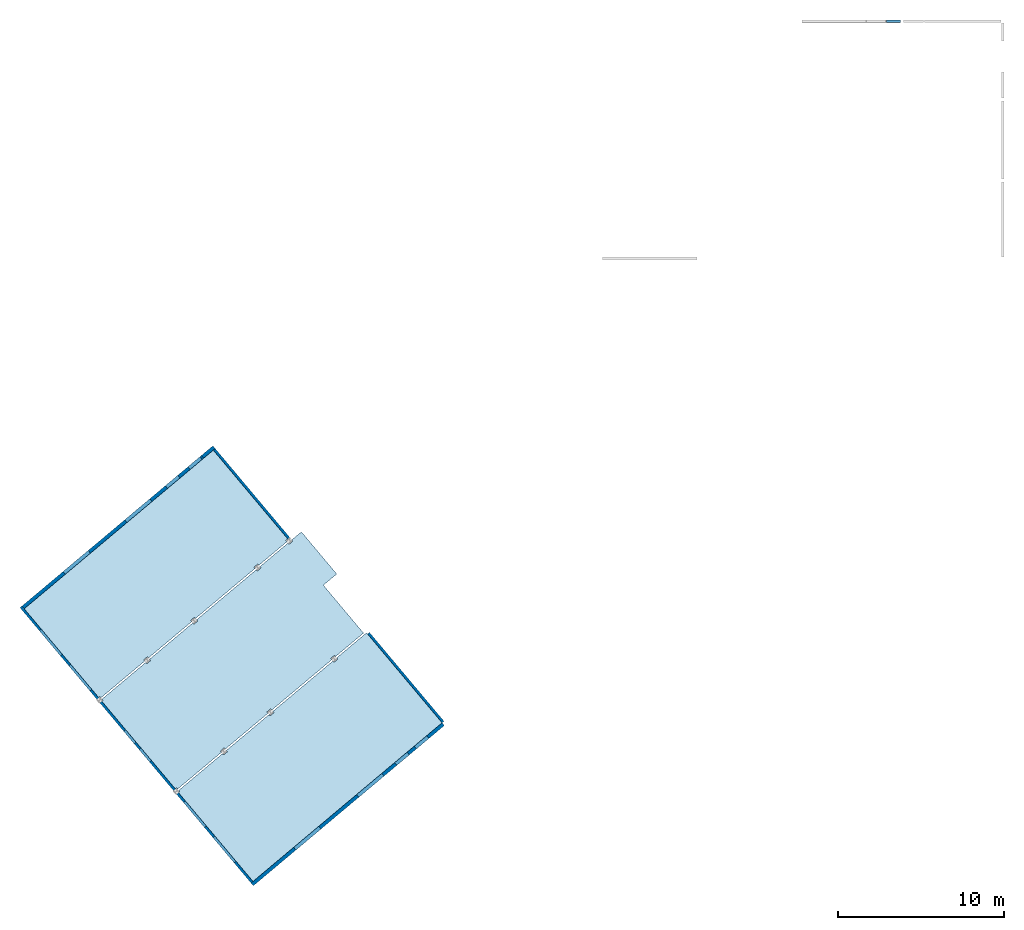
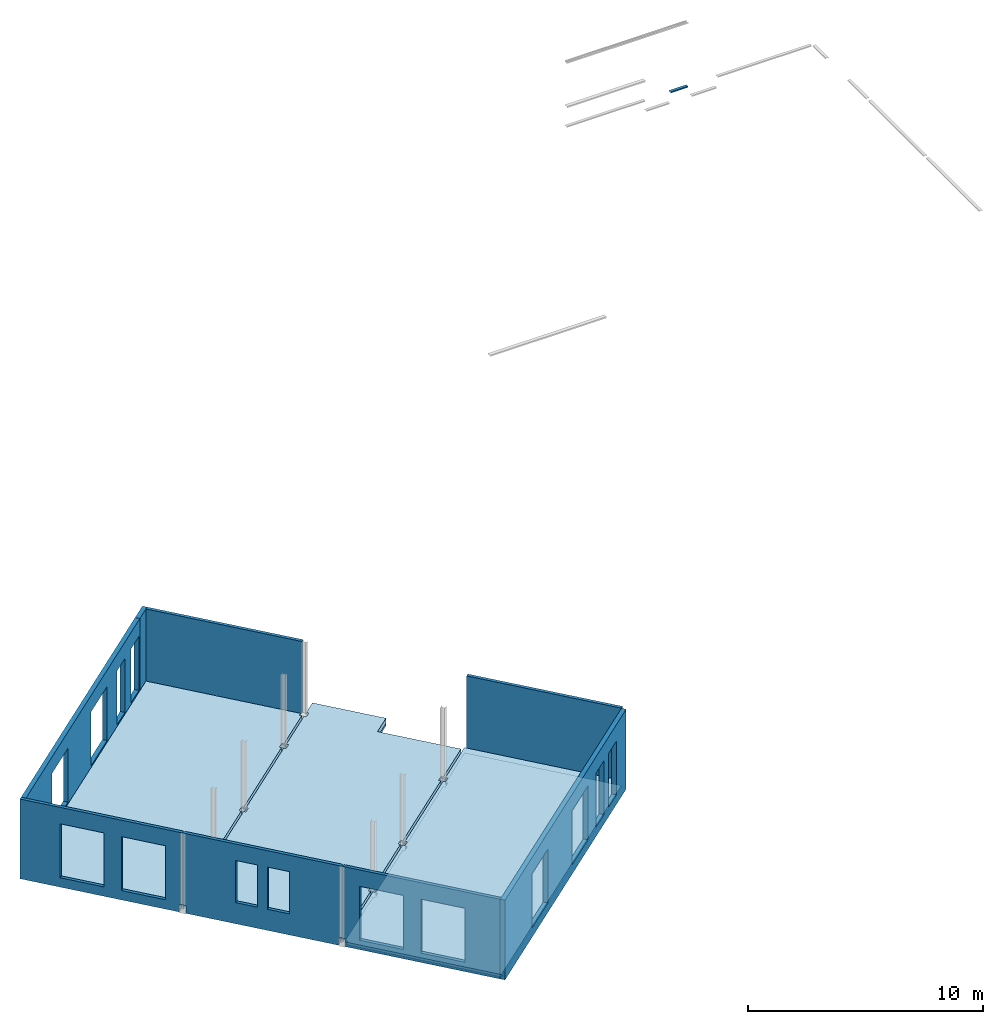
# One storey, part 3 of 3: 8 walls, 6 slabs, 1 beam, 19 openings.
"""IFC2X3 building model written with IfcOpenShell, lengths in millimetres."""

from ifc_helpers import new_model, entity, si_unit, converted_unit, derived_unit, direction, frame, frame_2d, origin, origin_2d_with_axis, place, context, subcontext, project, spatial, polyline, circle_curve, parameter, trimmed, segment, composite_curve, rectangle, outline, extrude, material, layer, layer_set, layer_usage, type_object, element, save


model = new_model("IFC2X3")

# Units and contexts
model_context = context("Model", 3, precision=0.01, world=origin(), true_north=direction((6.12303176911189e-17, 1.0)))
body_context = subcontext(model_context, "Body", "Model", "MODEL_VIEW")
ifc_project = project(units=[si_unit("LENGTHUNIT", "METRE", prefix="MILLI"), si_unit("AREAUNIT", "SQUARE_METRE"), si_unit("VOLUMEUNIT", "CUBIC_METRE"), converted_unit("PLANEANGLEUNIT", "DEGREE", entity("IfcRatioMeasure", 0.0174532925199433), si_unit("PLANEANGLEUNIT", "RADIAN"), dimensions=[0, 0, 0, 0, 0, 0, 0]), si_unit("MASSUNIT", "GRAM", prefix="KILO"), derived_unit("MASSDENSITYUNIT", [(si_unit("MASSUNIT", "GRAM", prefix="KILO"), 1), (si_unit("LENGTHUNIT", "METRE"), -3)]), derived_unit("MOMENTOFINERTIAUNIT", [(si_unit("LENGTHUNIT", "METRE"), 4)]), si_unit("TIMEUNIT", "SECOND"), si_unit("FREQUENCYUNIT", "HERTZ"), si_unit("THERMODYNAMICTEMPERATUREUNIT", "DEGREE_CELSIUS"), derived_unit("THERMALTRANSMITTANCEUNIT", [(si_unit("MASSUNIT", "GRAM", prefix="KILO"), 1), (si_unit("THERMODYNAMICTEMPERATUREUNIT", "KELVIN"), -1), (si_unit("TIMEUNIT", "SECOND"), -3)]), derived_unit("VOLUMETRICFLOWRATEUNIT", [(si_unit("LENGTHUNIT", "METRE"), 3), (si_unit("TIMEUNIT", "SECOND"), -1)]), si_unit("ELECTRICCURRENTUNIT", "AMPERE"), si_unit("ELECTRICVOLTAGEUNIT", "VOLT"), si_unit("POWERUNIT", "WATT"), si_unit("FORCEUNIT", "NEWTON", prefix="KILO"), si_unit("ILLUMINANCEUNIT", "LUX"), si_unit("LUMINOUSFLUXUNIT", "LUMEN"), si_unit("LUMINOUSINTENSITYUNIT", "CANDELA"), derived_unit("USERDEFINED", [(si_unit("MASSUNIT", "GRAM", prefix="KILO"), -1), (si_unit("LENGTHUNIT", "METRE"), -2), (si_unit("TIMEUNIT", "SECOND"), 3), (si_unit("LUMINOUSFLUXUNIT", "LUMEN"), 1)]), derived_unit("LINEARVELOCITYUNIT", [(si_unit("LENGTHUNIT", "METRE"), 1), (si_unit("TIMEUNIT", "SECOND"), -1)]), si_unit("PRESSUREUNIT", "PASCAL"), derived_unit("USERDEFINED", [(si_unit("LENGTHUNIT", "METRE"), -2), (si_unit("MASSUNIT", "GRAM", prefix="KILO"), 1), (si_unit("TIMEUNIT", "SECOND"), -2)]), derived_unit("LINEARFORCEUNIT", [(si_unit("MASSUNIT", "GRAM", prefix="KILO"), 1), (si_unit("LENGTHUNIT", "METRE"), 1), (si_unit("TIMEUNIT", "SECOND"), -2), (si_unit("LENGTHUNIT", "METRE"), -1)]), derived_unit("PLANARFORCEUNIT", [(si_unit("MASSUNIT", "GRAM", prefix="KILO"), 1), (si_unit("LENGTHUNIT", "METRE"), 1), (si_unit("TIMEUNIT", "SECOND"), -2), (si_unit("LENGTHUNIT", "METRE"), -2)])], contexts=[model_context])

# Site, building, storey
site_placement = place(None, origin())
site = spatial("IfcSite", under=ifc_project, at=site_placement, Name="Default", CompositionType="ELEMENT")
building_placement = place(site_placement, origin())
building = spatial("IfcBuilding", under=site, at=building_placement, CompositionType="ELEMENT")
storey_placement = place(building_placement, origin())
storey = spatial("IfcBuildingStorey", under=building, at=storey_placement, Name="00 begane grond", CompositionType="ELEMENT", Elevation=-2.70716782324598e-13)

# Beam
ifc_material_1 = material(Name="00_Staal_generiek")
beam_type = type_object("IfcBeamType", Name="BERSnl_28_SF_LIB_balk unp_gen_ISR:balk_gen_UNP140", PredefinedType="BEAM")
beam_placement = place(storey_placement, frame((55048.6770571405, 35356.2966282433, 1989.4999999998)))
element("IfcBeam", 1, at=beam_placement, inside=storey, type_object=beam_type, material=ifc_material_1, Name="BERSnl_28_SF_LIB_balk unp_gen_ISR:balk_gen_UNP140", ObjectType="BERSnl_28_SF_LIB_balk unp_gen_ISR:balk_gen_UNP140", context=body_context, shape_type="SweptSolid", body=[
    extrude(outline(composite_curve([segment(polyline([(-33.1001241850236, -70.0), (26.8998758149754, -70.0)]), True, "CONTINUOUS"), segment(polyline([(26.8998758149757, -70.0), (26.8998758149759, -66.7383127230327)]), True, "CONTINUOUS"), segment(trimmed(circle_curve(frame_2d((21.8998758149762, -66.738312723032), x_axis=(1.0, 0.0)), 4.99999999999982), [parameter(0.0)], [parameter(85.4200000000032)], True, "PARAMETER"), True, "CONTINUOUS"), segment(polyline([(22.2991307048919, -61.7542786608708), (-16.8986339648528, -58.6142721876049)]), True, "CONTINUOUS"), segment(trimmed(circle_curve(frame_2d((-16.1001241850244, -48.6462040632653), x_axis=(-0.0798509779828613, -0.996806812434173)), 9.99999999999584), [parameter(274.579999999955)], [parameter(0.0)], True, "PARAMETER"), False, "CONTINUOUS"), segment(polyline([(-26.1001241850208, -48.6462040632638), (-26.1001241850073, 48.64620406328)]), True, "CONTINUOUS"), segment(trimmed(circle_curve(frame_2d((-16.1001241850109, 48.6462040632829), x_axis=(-1.0, 0.0)), 9.99999999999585), [parameter(274.579999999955)], [parameter(0.0)], True, "PARAMETER"), False, "CONTINUOUS"), segment(polyline([(-16.8986339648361, 58.6142721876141), (22.2991307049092, 61.7542786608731)]), True, "CONTINUOUS"), segment(trimmed(circle_curve(frame_2d((21.8998758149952, 66.738312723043), x_axis=(0.079850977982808, -0.996806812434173)), 4.9999999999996), [parameter(0.0)], [parameter(85.4200000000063)], True, "PARAMETER"), True, "CONTINUOUS"), segment(polyline([(26.8998758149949, 66.7383127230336), (26.8998758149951, 70.0)]), True, "CONTINUOUS"), segment(polyline([(26.8998758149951, 70.0), (-33.1001241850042, 70.0)]), True, "CONTINUOUS"), segment(polyline([(-33.1001241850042, 70.0), (-33.1001241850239, -70.0)]), True, "CONTINUOUS")], self_intersect=False)), frame((-2705.24999999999, 70.0, -15.6001241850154), z_axis=(1.0, 0.0, 0.0), x_axis=(0.0, 0.0, -1.0)), (0.0, 0.0, 1.0), 850.000000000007),
])

# Slabs
ifc_material_2 = material(Name="f2_beton prefab")
ifc_layer_1 = layer(ifc_material_2, 265.0)
ifc_layer_set_1 = layer_set([ifc_layer_1], Name="Floor:BERSnl_23_FL_kanaalplaatvloer 265")
ifc_layer_usage_1 = layer_usage(ifc_layer_set_1, "AXIS3", "POSITIVE", 0.0)
slab_type_1 = type_object("IfcSlabType", Name="Floor:BERSnl_23_FL_kanaalplaatvloer 265", PredefinedType="FLOOR", material=ifc_layer_set_1)
slab_1_placement = place(storey_placement, origin())
element("IfcSlab", 2, at=slab_1_placement, inside=storey, type_object=slab_type_1, material=ifc_layer_usage_1, Name="Floor:BERSnl_23_FL_kanaalplaatvloer 265", ObjectType="Floor:BERSnl_23_FL_kanaalplaatvloer 265", PredefinedType="FLOOR", context=body_context, shape_type="SweptSolid", body=[
    extrude(outline(polyline([(-833.333333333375, -8026.02686593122), (6266.66666666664, -8026.02686593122), (6266.66666666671, 6884.35373036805), (-733.333333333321, 6884.35373036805), (-733.333333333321, 6789.99863434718), (-833.333333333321, 6789.99863434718), (-833.333333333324, 3333.78293508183), (-733.333333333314, 3333.78293508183), (-733.333333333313, 3033.78293508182), (-833.333333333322, 3033.78293508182), (-833.33333333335, -342.175500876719), (-733.33333333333, -342.175500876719), (-733.33333333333, -642.175500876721), (-833.333333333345, -642.17550087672), (-833.333333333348, -5365.77018359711), (-733.33333333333, -5365.77018359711), (-733.333333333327, -5665.77018359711), (-833.333333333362, -5665.77018359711), (-833.333333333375, -8026.02686593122)])), frame((15317.9820554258, -7311.74844094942, 1360.0), z_axis=(0.0, 0.0, -1.0), x_axis=(0.642787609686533, -0.766044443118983, 0.0)), (0.0, 0.0, 1.0), 265.0),
])
ifc_material_3 = material(Name="00_Isolatie_generiek")
ifc_layer_2 = layer(ifc_material_3, 130.0)
ifc_layer_set_2 = layer_set([ifc_layer_2], Name="Floor:NLRS_23_FL_isolatie 130")
ifc_layer_usage_2 = layer_usage(ifc_layer_set_2, "AXIS3", "POSITIVE", 0.0)
slab_type_2 = type_object("IfcSlabType", Name="Floor:NLRS_23_FL_isolatie 130", PredefinedType="FLOOR", material=ifc_layer_set_2)
slab_2_placement = place(storey_placement, origin())
element("IfcSlab", 3, at=slab_2_placement, inside=storey, type_object=slab_type_2, material=ifc_layer_usage_2, Name="Floor:NLRS_23_FL_isolatie 130", ObjectType="Floor:NLRS_23_FL_isolatie 130", PredefinedType="FLOOR", context=body_context, shape_type="SweptSolid", body=[
    extrude(outline(polyline([(-833.333333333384, -8026.53423951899), (6266.66666666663, -8026.53423951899), (6266.66666666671, 6884.41715206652), (-733.333333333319, 6884.41715206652), (-733.333333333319, 6790.06205604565), (-833.333333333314, 6790.06205604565), (-833.333333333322, 3333.8463567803), (-733.333333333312, 3333.8463567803), (-733.333333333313, 3033.8463567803), (-833.333333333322, 3033.8463567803), (-833.333333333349, -342.112079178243), (-733.333333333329, -342.112079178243), (-733.333333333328, -642.112079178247), (-833.333333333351, -642.112079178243), (-833.333333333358, -5365.70676189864), (-733.333333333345, -5365.70676189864), (-733.333333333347, -5665.70676189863), (-833.333333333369, -5665.70676189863), (-833.333333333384, -8026.53423951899)])), frame((15318.0306392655, -7311.70767426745, 1095.0), z_axis=(0.0, 0.0, -1.0), x_axis=(0.642787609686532, -0.766044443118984, 0.0)), (0.0, 0.0, 1.0), 130.0),
])
ifc_layer_usage_3 = layer_usage(ifc_layer_set_1, "AXIS3", "POSITIVE", 0.0)
slab_type_3 = type_object("IfcSlabType", Name="Floor:BERSnl_23_FL_kanaalplaatvloer 265", PredefinedType="FLOOR", material=ifc_layer_set_1)
slab_3_placement = place(storey_placement, origin())
element("IfcSlab", 4, at=slab_3_placement, inside=storey, type_object=slab_type_3, material=ifc_layer_usage_3, Name="Floor:BERSnl_23_FL_kanaalplaatvloer 265", ObjectType="Floor:BERSnl_23_FL_kanaalplaatvloer 265", PredefinedType="FLOOR", context=body_context, shape_type="SweptSolid", body=[
    extrude(outline(polyline([(-3169.736842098, -7681.17558252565), (155.26315789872, -7681.17558252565), (155.263157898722, -6626.17558253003), (3930.26315789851, -6626.17558252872), (3930.26315789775, -4416.29943038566), (3830.26315789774, -4416.29943038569), (3830.26315789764, -4116.29943038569), (3930.26315789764, -4116.29943038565), (3930.26315789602, 607.295252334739), (3830.26315789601, 607.295252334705), (3830.2631578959, 907.295252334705), (3930.26315789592, 907.295252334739), (3930.26315789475, 4283.25368829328), (3830.26315789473, 4283.25368829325), (3830.26315789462, 4583.25368829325), (3930.26315789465, 4583.25368829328), (3930.26315789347, 8039.46938755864), (3830.26315789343, 8039.4693875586), (3830.2631578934, 8133.82448357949), (-3069.7368421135, 8133.82448357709), (-3069.73684211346, 8039.46938755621), (-3169.73684210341, 8039.46938755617), (-3169.7368421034, 4583.24922223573), (-3069.73684210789, 4583.24922223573), (-3069.73684211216, 4283.24922223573), (-3169.7368421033, 4283.24922223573), (-3169.73684210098, 883.24922223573), (-3069.73684211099, 883.24922223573), (-3069.73684211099, 583.249222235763), (-3169.73684210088, 583.249222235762), (-3169.73684210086, -4116.81932617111), (-3069.73684211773, -4116.81932617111), (-3069.73684211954, -4416.97645145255), (-3169.73684209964, -4416.97645145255), (-3169.73684209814, -6626.55611272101), (-3069.73684210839, -6626.55611272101), (-3069.73684210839, -6926.55611272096), (-3169.736842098, -6926.55611272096), (-3169.736842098, -7681.17558252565)])), frame((13148.8726196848, -2782.87305644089, 1360.0), z_axis=(0.0, 0.0, -1.0), x_axis=(0.642787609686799, -0.76604444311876, 0.0)), (0.0, 0.0, 1.0), 265.0),
])
ifc_layer_usage_4 = layer_usage(ifc_layer_set_2, "AXIS3", "POSITIVE", 0.0)
slab_type_4 = type_object("IfcSlabType", Name="Floor:NLRS_23_FL_isolatie 130", PredefinedType="FLOOR", material=ifc_layer_set_2)
slab_4_placement = place(storey_placement, origin())
element("IfcSlab", 5, at=slab_4_placement, inside=storey, type_object=slab_type_4, material=ifc_layer_usage_4, Name="Floor:NLRS_23_FL_isolatie 130", ObjectType="Floor:NLRS_23_FL_isolatie 130", PredefinedType="FLOOR", context=body_context, shape_type="SweptSolid", body=[
    extrude(outline(polyline([(155.393663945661, -6626.16731277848), (3930.39366394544, -6626.16731277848), (3930.39366394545, -4416.29116063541), (3830.39366394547, -4416.29116063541), (3830.39366394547, -4116.29116063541), (3930.39366394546, -4116.29116063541), (3930.39366394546, 607.303522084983), (3830.39366394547, 607.303522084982), (3830.39366394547, 907.303522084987), (3930.39366394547, 907.303522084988), (3930.39366394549, 4283.26195804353), (3830.39366394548, 4283.26195804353), (3830.39366394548, 4583.26195804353), (3930.39366394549, 4583.26195804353), (3930.3936639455, 8039.47765730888), (3830.39366394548, 8039.47765730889), (3830.39366394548, 8133.83275332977), (-3072.08595094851, 8133.83275332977), (-3072.08595094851, 8039.47765730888), (-3169.60633606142, 8039.47765730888), (-3169.60633606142, 4583.25749198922), (-3069.60633605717, 4583.25749198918), (-3069.60633605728, 4283.25749198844), (-3169.60633606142, 4283.25749198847), (-3169.60633606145, 883.257491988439), (-3069.60633606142, 883.257491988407), (-3069.60633606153, 583.257491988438), (-3169.60633606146, 583.257491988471), (-3169.60633606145, -4116.96818169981), (-3069.60633607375, -4116.96818169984), (-3069.60633607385, -4416.96818169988), (-3169.60633606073, -4416.96818169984), (-3169.60633606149, -6626.54784296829), (-3069.60633606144, -6626.54784296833), (-3069.60633606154, -6926.54784296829), (-3169.60633606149, -6926.54784296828), (-3169.60633606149, -7681.16731277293), (155.39366394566, -7681.16731277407), (155.393663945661, -6626.16731277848)])), frame((13148.7950670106, -2782.76776731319, 1095.0), z_axis=(0.0, 0.0, -1.0), x_axis=(0.642787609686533, -0.766044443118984, 0.0)), (0.0, 0.0, 1.0), 130.0),
])
ifc_layer_usage_5 = layer_usage(ifc_layer_set_1, "AXIS3", "POSITIVE", 0.0)
slab_type_5 = type_object("IfcSlabType", Name="Floor:BERSnl_23_FL_kanaalplaatvloer 265", PredefinedType="FLOOR", material=ifc_layer_set_1)
slab_5_placement = place(storey_placement, origin())
element("IfcSlab", 6, at=slab_5_placement, inside=storey, type_object=slab_type_5, material=ifc_layer_usage_5, Name="Floor:BERSnl_23_FL_kanaalplaatvloer 265", ObjectType="Floor:BERSnl_23_FL_kanaalplaatvloer 265", PredefinedType="FLOOR", context=body_context, shape_type="SweptSolid", body=[
    extrude(outline(polyline([(-6340.30331497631, -7233.13619871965), (659.696685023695, -7233.13619871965), (659.696685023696, -7083.51672891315), (759.696684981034, -7083.51672891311), (759.696684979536, -4873.93706764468), (660.707735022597, -4873.93706764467), (660.707735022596, -4573.93706764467), (759.696684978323, -4573.93706764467), (759.696684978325, 126.288606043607), (660.707735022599, 126.288606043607), (660.707735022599, 426.288606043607), (759.696684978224, 426.288606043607), (759.696684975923, 3826.28860604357), (660.707735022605, 3826.28860604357), (660.707735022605, 4126.2886060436), (759.696684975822, 4126.2886060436), (759.696684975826, 7582.50877136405), (659.69668497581, 7582.50877136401), (659.69668497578, 7676.86386738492), (-6340.30331498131, 7676.86386738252), (-6340.30331497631, -7233.13619871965)])), frame((10208.7505336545, 10.1234837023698, 1360.0), z_axis=(0.0, 0.0, -1.0), x_axis=(0.642787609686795, -0.766044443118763, 0.0)), (0.0, 0.0, 1.0), 265.0),
])
ifc_layer_usage_6 = layer_usage(ifc_layer_set_2, "AXIS3", "POSITIVE", 0.0)
slab_type_6 = type_object("IfcSlabType", Name="Floor:NLRS_23_FL_isolatie 130", PredefinedType="FLOOR", material=ifc_layer_set_2)
slab_6_placement = place(storey_placement, origin())
element("IfcSlab", 7, at=slab_6_placement, inside=storey, type_object=slab_type_6, material=ifc_layer_usage_6, Name="Floor:NLRS_23_FL_isolatie 130", ObjectType="Floor:NLRS_23_FL_isolatie 130", PredefinedType="FLOOR", context=body_context, shape_type="SweptSolid", body=[
    extrude(outline(polyline([(4125.95896041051, -759.689074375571), (7582.17912573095, -759.689074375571), (7582.17912573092, -659.689074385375), (7676.53422175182, -659.689074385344), (7676.53422174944, 6340.31092558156), (-7233.84637454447, 6340.31092557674), (-7233.84637454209, -660.700124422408), (-7083.84637454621, -660.700124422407), (-7083.84637454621, -759.689074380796), (-4870.58972675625, -759.689074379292), (-4870.58972675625, -660.70012442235), (-4574.26671327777, -660.700124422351), (-4574.26671327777, -759.689074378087), (125.95896041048, -759.689074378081), (125.958960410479, -659.76518041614), (425.958960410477, -659.765180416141), (425.95896041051, -759.689074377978), (3825.95896041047, -759.689074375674), (3825.95896041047, -660.700124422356), (4125.95896041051, -660.700124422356), (4125.95896041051, -759.689074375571)])), frame((10208.5029024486, 9.90576151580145, 1095.0), z_axis=(0.0, 0.0, -1.0), x_axis=(-0.766044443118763, -0.642787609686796, 0.0)), (0.0, 0.0, 1.0), 130.0),
])

# Wall, openings
ifc_material_4 = material(Name="f1_kalkzandsteen")
ifc_layer_3 = layer(ifc_material_4, 214.0)
ifc_layer_set_3 = layer_set([ifc_layer_3], Name="Basic Wall:BERSnl_22_WA_kalkzandsteen214")
ifc_layer_usage_7 = layer_usage(ifc_layer_set_3, "AXIS2", "NEGATIVE", 107.0)
wall_type_1 = type_object("IfcWallType", Name="Basic Wall:BERSnl_22_WA_kalkzandsteen214", PredefinedType="STANDARD", material=ifc_layer_set_3)
wall_1_placement = place(storey_placement, frame((14026.2684309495, -16715.855793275, 965.0), z_axis=(0.0, 0.0, 1.0), x_axis=(0.766044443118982, 0.642787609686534, 0.0)))
wall_1 = element("IfcWallStandardCase", 8, at=wall_1_placement, inside=storey, type_object=wall_type_1, material=ifc_layer_usage_7, Name="Basic Wall:BERSnl_22_WA_kalkzandsteen214", ObjectType="Basic Wall:BERSnl_22_WA_kalkzandsteen214", context=body_context, shape_type="SweptSolid", body=[
    extrude(rectangle(XDim=15060.3805962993, YDim=214.0, at=frame_2d((7530.19029814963, 2.91322521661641e-13), x_axis=(-1.0, 0.0))), origin(), (0.0, 0.0, 1.0), 4135.00000000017),
])
opening_1_placement = place(wall_1_placement, origin())
element("IfcOpeningElement", 9, at=opening_1_placement, cuts=wall_1, Name="Basic Wall:BERSnl_22_WA_kalkzandsteen214", ObjectType="Opening", context=body_context, shape_type="SweptSolid", body=[
    extrude(rectangle(XDim=2800.00000000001, YDim=1986.0, at=frame_2d((-3.41060513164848e-13, 0.0), x_axis=(1.0, 0.0))), frame((4345.0, -107.0, 1885.0), z_axis=(0.0, 1.0, 0.0), x_axis=(0.0, 0.0, -1.0)), (0.0, 0.0, 1.0), 213.999999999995),
])
opening_2_placement = place(wall_1_placement, origin())
element("IfcOpeningElement", 10, at=opening_2_placement, cuts=wall_1, Name="Basic Wall:BERSnl_22_WA_kalkzandsteen214", ObjectType="Opening", context=body_context, shape_type="SweptSolid", body=[
    extrude(rectangle(XDim=2800.00000000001, YDim=1986.0, at=frame_2d((0.0, 6.82121026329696e-13), x_axis=(1.0, 0.0))), frame((9315.0, -107.0, 1885.0), z_axis=(0.0, 1.0, 0.0), x_axis=(0.0, 0.0, -1.0)), (0.0, 0.0, 1.0), 214.000000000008),
])
opening_3_placement = place(wall_1_placement, origin())
element("IfcOpeningElement", 11, at=opening_3_placement, cuts=wall_1, Name="Basic Wall:BERSnl_22_WA_kalkzandsteen214", ObjectType="Opening", context=body_context, shape_type="SweptSolid", body=[
    extrude(rectangle(XDim=2800.00000000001, YDim=986.000000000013, at=frame_2d((0.0, -3.41060513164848e-13), x_axis=(1.0, 0.0))), frame((11804.8001823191, -107.0, 1885.0), z_axis=(0.0, 1.0, 0.0), x_axis=(0.0, 0.0, -1.0)), (0.0, 0.0, 1.0), 213.999999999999),
])
opening_4_placement = place(wall_1_placement, origin())
element("IfcOpeningElement", 12, at=opening_4_placement, cuts=wall_1, Name="Basic Wall:BERSnl_22_WA_kalkzandsteen214", ObjectType="Opening", context=body_context, shape_type="SweptSolid", body=[
    extrude(rectangle(XDim=2800.00000000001, YDim=985.999999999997, at=frame_2d((0.0, 2.04636307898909e-12), x_axis=(1.0, 0.0))), frame((13354.8001823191, -107.0, 1885.0), z_axis=(0.0, 1.0, 0.0), x_axis=(0.0, 0.0, -1.0)), (0.0, 0.0, 1.0), 214.000000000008),
])

ifc_layer_usage_8 = layer_usage(ifc_layer_set_3, "AXIS2", "NEGATIVE", 107.0)
wall_2_placement = place(storey_placement, frame((185.367751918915, 15.8634323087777, -485.0), z_axis=(0.0, 0.0, 1.0), x_axis=(0.76604444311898, 0.642787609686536, 0.0)))
wall_2 = element("IfcWallStandardCase", 13, at=wall_2_placement, inside=storey, type_object=wall_type_1, material=ifc_layer_usage_8, Name="Basic Wall:BERSnl_22_WA_kalkzandsteen214", ObjectType="Basic Wall:BERSnl_22_WA_kalkzandsteen214", context=body_context, shape_type="SweptSolid", body=[
    extrude(rectangle(XDim=14152.9434664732, YDim=214.000000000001, at=frame_2d((7076.47173323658, 3.12638803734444e-13), x_axis=(-1.0, 0.0))), origin(), (0.0, 0.0, 1.0), 5585.00000000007),
])
opening_5_placement = place(wall_2_placement, origin())
element("IfcOpeningElement", 14, at=opening_5_placement, cuts=wall_2, Name="Basic Wall:BERSnl_22_WA_kalkzandsteen214", ObjectType="Opening", context=body_context, shape_type="SweptSolid", body=[
    extrude(rectangle(XDim=2800.0, YDim=1986.0, at=frame_2d((0.0, 5.6843418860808e-14), x_axis=(1.0, 0.0))), frame((4232.80324597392, -107.0, 3335.0), z_axis=(0.0, 1.0, 0.0), x_axis=(0.0, 0.0, -1.0)), (0.0, 0.0, 1.0), 214.0),
])
opening_6_placement = place(wall_2_placement, origin())
element("IfcOpeningElement", 15, at=opening_6_placement, cuts=wall_2, Name="Basic Wall:BERSnl_22_WA_kalkzandsteen214", ObjectType="Opening", context=body_context, shape_type="SweptSolid", body=[
    extrude(rectangle(XDim=2800.0, YDim=1986.0, at=origin_2d_with_axis()), frame((9092.80324597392, -107.0, 3335.0), z_axis=(0.0, 1.0, 0.0), x_axis=(0.0, 0.0, -1.0)), (0.0, 0.0, 1.0), 214.0),
])
opening_7_placement = place(wall_2_placement, origin())
element("IfcOpeningElement", 16, at=opening_7_placement, cuts=wall_2, Name="Basic Wall:BERSnl_22_WA_kalkzandsteen214", ObjectType="Opening", context=body_context, shape_type="SweptSolid", body=[
    extrude(rectangle(XDim=2800.0, YDim=985.999999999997, at=frame_2d((0.0, -3.97903932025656e-13), x_axis=(1.0, 0.0))), frame((11802.8032459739, -107.0, 3335.0), z_axis=(0.0, 1.0, 0.0), x_axis=(0.0, 0.0, -1.0)), (0.0, 0.0, 1.0), 214.0),
])
opening_8_placement = place(wall_2_placement, origin())
element("IfcOpeningElement", 17, at=opening_8_placement, cuts=wall_2, Name="Basic Wall:BERSnl_22_WA_kalkzandsteen214", ObjectType="Opening", context=body_context, shape_type="SweptSolid", body=[
    extrude(rectangle(XDim=2800.0, YDim=952.929440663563, at=origin_2d_with_axis()), frame((13556.2679663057, -107.0, 3335.0), z_axis=(0.0, 1.0, 0.0), x_axis=(0.0, 0.0, -1.0)), (0.0, 0.0, 1.0), 214.000000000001),
])
opening_9_placement = place(wall_2_placement, origin())
element("IfcOpeningElement", 18, at=opening_9_placement, cuts=wall_2, Name="Basic Wall:BERSnl_22_WA_kalkzandsteen214", ObjectType="Opening", context=body_context, shape_type="SweptSolid", body=[
    extrude(rectangle(XDim=1450.0, YDim=11307.8033120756, at=frame_2d((3.97903932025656e-13, -9.09494701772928e-13), x_axis=(1.0, 0.0))), frame((5653.90165603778, 107.0, 725.0), z_axis=(0.0, -1.0, 0.0), x_axis=(0.0, 0.0, 1.0)), (0.0, 0.0, 1.0), 214.0),
])

# Wall
ifc_layer_usage_9 = layer_usage(ifc_layer_set_3, "AXIS2", "NEGATIVE", 107.0)
wall_3_placement = place(storey_placement, frame((11027.1514481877, 9113.20013315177, -485.0), z_axis=(0.0, 0.0, 1.0), x_axis=(0.76604444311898, 0.642787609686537, 0.0)))
element("IfcWallStandardCase", 19, at=wall_3_placement, inside=storey, type_object=wall_type_1, material=ifc_layer_usage_9, Name="Basic Wall:BERSnl_22_WA_kalkzandsteen214", ObjectType="Basic Wall:BERSnl_22_WA_kalkzandsteen214", context=body_context, shape_type="SweptSolid", body=[
    extrude(rectangle(XDim=905.240375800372, YDim=214.000000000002, at=frame_2d((452.620187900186, 3.90798504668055e-13), x_axis=(-1.0, 0.0))), origin(), (0.0, 0.0, 1.0), 5585.00000000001),
])

# Wall, openings
ifc_layer_4 = layer(ifc_material_4, 150.0)
ifc_layer_set_4 = layer_set([ifc_layer_4], Name="Basic Wall:BERSnl_22_WA_kalkzandsteen150")
ifc_layer_usage_10 = layer_usage(ifc_layer_set_4, "AXIS2", "NEGATIVE", 75.0)
wall_type_2 = type_object("IfcWallType", Name="Basic Wall:BERSnl_22_WA_kalkzandsteen150", PredefinedType="STANDARD", material=ifc_layer_set_4)
wall_4_placement = place(storey_placement, frame((14014.9434899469, -16585.6799671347, 965.0), z_axis=(0.0, 0.0, 1.0), x_axis=(-0.642787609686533, 0.766044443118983, 0.0)))
wall_4 = element("IfcWallStandardCase", 20, at=wall_4_placement, inside=storey, type_object=wall_type_2, material=ifc_layer_usage_10, Name="Basic Wall:BERSnl_22_WA_kalkzandsteen150", ObjectType="Basic Wall:BERSnl_22_WA_kalkzandsteen150", context=body_context, shape_type="SweptSolid", body=[
    extrude(rectangle(XDim=7120.00000000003, YDim=149.999999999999, at=frame_2d((3560.00000000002, -2.55795384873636e-13), x_axis=(-1.0, 0.0))), origin(), (0.0, 0.0, 1.0), 4135.00000000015),
])
opening_10_placement = place(wall_4_placement, origin())
element("IfcOpeningElement", 21, at=opening_10_placement, cuts=wall_4, Name="Basic Wall:BERSnl_22_WA_kalkzandsteen150", ObjectType="Opening", context=body_context, shape_type="SweptSolid", body=[
    extrude(rectangle(XDim=2799.99999999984, YDim=1986.0, at=frame_2d((3.41060513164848e-13, 0.0), x_axis=(1.0, 0.0))), frame((2591.0, -75.0, 1885.0), z_axis=(0.0, 1.0, 0.0), x_axis=(0.0, 0.0, -1.0)), (0.0, 0.0, 1.0), 149.999999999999),
])
opening_11_placement = place(wall_4_placement, origin())
element("IfcOpeningElement", 22, at=opening_11_placement, cuts=wall_4, Name="Basic Wall:BERSnl_22_WA_kalkzandsteen150", ObjectType="Opening", context=body_context, shape_type="SweptSolid", body=[
    extrude(rectangle(XDim=2799.99999999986, YDim=1986.0, at=frame_2d((-3.41060513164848e-13, -1.53477230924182e-12), x_axis=(1.0, 0.0))), frame((5361.0, -75.0, 1885.0), z_axis=(0.0, 1.0, 0.0), x_axis=(0.0, 0.0, -1.0)), (0.0, 0.0, 1.0), 149.999999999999),
])
opening_12_placement = place(wall_4_placement, origin())
element("IfcOpeningElement", 23, at=opening_12_placement, cuts=wall_4, Name="Basic Wall:BERSnl_22_WA_kalkzandsteen150", ObjectType="Opening", context=body_context, shape_type="SweptSolid", body=[
    extrude(rectangle(XDim=395.0, YDim=120.000000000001, at=frame_2d((3.48165940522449e-13, -7.105427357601e-14), x_axis=(0.0, 1.0))), frame((7060.0, 75.0, 197.5), z_axis=(0.0, -1.0, 0.0), x_axis=(1.0, 0.0, 0.0)), (0.0, 0.0, 1.0), 150.0),
])

ifc_layer_usage_11 = layer_usage(ifc_layer_set_4, "AXIS2", "NEGATIVE", 75.0)
wall_5_placement = place(storey_placement, frame((9412.58420459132, -11100.8017544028, 965.0), z_axis=(0.0, 0.0, 1.0), x_axis=(-0.642787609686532, 0.766044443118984, 0.0)))
wall_5 = element("IfcWallStandardCase", 24, at=wall_5_placement, inside=storey, type_object=wall_type_2, material=ifc_layer_usage_11, Name="Basic Wall:BERSnl_22_WA_kalkzandsteen150", ObjectType="Basic Wall:BERSnl_22_WA_kalkzandsteen150", context=body_context, shape_type="SweptSolid", body=[
    extrude(rectangle(XDim=7162.47961489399, YDim=150.000000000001, at=frame_2d((3581.239807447, 1.4210854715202e-13), x_axis=(-1.0, 0.0))), origin(), (0.0, 0.0, 1.0), 4135.00000000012),
])
opening_13_placement = place(wall_5_placement, origin())
element("IfcOpeningElement", 25, at=opening_13_placement, cuts=wall_5, Name="Basic Wall:BERSnl_22_WA_kalkzandsteen150", ObjectType="Opening", context=body_context, shape_type="SweptSolid", body=[
    extrude(rectangle(XDim=2190.0, YDim=986.0, at=origin_2d_with_axis()), frame((2870.0, -75.0, 2190.0), z_axis=(0.0, 1.0, 0.0), x_axis=(0.0, 0.0, -1.0)), (0.0, 0.0, 1.0), 150.000000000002),
])
opening_14_placement = place(wall_5_placement, origin())
element("IfcOpeningElement", 26, at=opening_14_placement, cuts=wall_5, Name="Basic Wall:BERSnl_22_WA_kalkzandsteen150", ObjectType="Opening", context=body_context, shape_type="SweptSolid", body=[
    extrude(rectangle(XDim=2190.0, YDim=986.000000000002, at=frame_2d((0.0, 1.13686837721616e-12), x_axis=(1.0, 0.0))), frame((4310.0, -75.0, 2190.0), z_axis=(0.0, 1.0, 0.0), x_axis=(0.0, 0.0, -1.0)), (0.0, 0.0, 1.0), 149.999999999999),
])
opening_15_placement = place(wall_5_placement, origin())
element("IfcOpeningElement", 27, at=opening_15_placement, cuts=wall_5, Name="Basic Wall:BERSnl_22_WA_kalkzandsteen150", ObjectType="Opening", context=body_context, shape_type="SweptSolid", body=[
    extrude(rectangle(XDim=395.0, YDim=122.479614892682, at=frame_2d((4.12114786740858e-13, 7.105427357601e-14), x_axis=(0.0, 1.0))), frame((7101.23980744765, 75.0, 197.5), z_axis=(0.0, -1.0, 0.0), x_axis=(1.0, 0.0, 0.0)), (0.0, 0.0, 1.0), 150.0),
])
opening_16_placement = place(wall_5_placement, origin())
element("IfcOpeningElement", 28, at=opening_16_placement, cuts=wall_5, Name="Basic Wall:BERSnl_22_WA_kalkzandsteen150", ObjectType="Opening", context=body_context, shape_type="SweptSolid", body=[
    extrude(rectangle(XDim=395.0, YDim=140.000000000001, at=frame_2d((0.0, -1.52766688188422e-12), x_axis=(1.0, 0.0))), frame((70.0, 75.0, 197.5), z_axis=(0.0, -1.0, 0.0), x_axis=(0.0, 0.0, -1.0)), (0.0, 0.0, 1.0), 150.0),
])

ifc_layer_usage_12 = layer_usage(ifc_layer_set_4, "AXIS2", "POSITIVE", -75.0)
wall_6_placement = place(storey_placement, frame((57.4533332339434, 48.2090707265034, 965.0), z_axis=(0.0, 0.0, 1.0), x_axis=(0.642787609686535, -0.766044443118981, 0.0)))
wall_6 = element("IfcWallStandardCase", 29, at=wall_6_placement, inside=storey, type_object=wall_type_2, material=ifc_layer_usage_12, Name="Basic Wall:BERSnl_22_WA_kalkzandsteen150", ObjectType="Basic Wall:BERSnl_22_WA_kalkzandsteen150", context=body_context, shape_type="SweptSolid", body=[
    extrude(rectangle(XDim=7343.99999996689, YDim=150.0, at=frame_2d((3671.99999998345, -1.49213974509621e-13), x_axis=(-1.0, 0.0))), origin(), (0.0, 0.0, 1.0), 4135.00000000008),
])
opening_17_placement = place(wall_6_placement, origin())
element("IfcOpeningElement", 30, at=opening_17_placement, cuts=wall_6, Name="Basic Wall:BERSnl_22_WA_kalkzandsteen150", ObjectType="Opening", context=body_context, shape_type="SweptSolid", body=[
    extrude(rectangle(XDim=2800.0, YDim=1986.0, at=frame_2d((0.0, 5.6843418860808e-14), x_axis=(1.0, 0.0))), frame((2807.0, -75.0, 1885.0), z_axis=(0.0, 1.0, 0.0), x_axis=(0.0, 0.0, -1.0)), (0.0, 0.0, 1.0), 150.0),
])
opening_18_placement = place(wall_6_placement, origin())
element("IfcOpeningElement", 31, at=opening_18_placement, cuts=wall_6, Name="Basic Wall:BERSnl_22_WA_kalkzandsteen150", ObjectType="Opening", context=body_context, shape_type="SweptSolid", body=[
    extrude(rectangle(XDim=2800.0, YDim=1986.0, at=frame_2d((0.0, -2.8421709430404e-13), x_axis=(1.0, 0.0))), frame((5575.0, -75.0, 1885.0), z_axis=(0.0, 1.0, 0.0), x_axis=(0.0, 0.0, -1.0)), (0.0, 0.0, 1.0), 150.000000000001),
])
opening_19_placement = place(wall_6_placement, origin())
element("IfcOpeningElement", 32, at=opening_19_placement, cuts=wall_6, Name="Basic Wall:BERSnl_22_WA_kalkzandsteen150", ObjectType="Opening", context=body_context, shape_type="SweptSolid", body=[
    extrude(rectangle(XDim=395.0, YDim=130.000000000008, at=frame_2d((1.77635683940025e-13, -7.105427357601e-14), x_axis=(0.0, 1.0))), frame((7279.0, 75.0, 197.5), z_axis=(0.0, -1.0, 0.0), x_axis=(1.0, 0.0, 0.0)), (0.0, 0.0, 1.0), 150.0),
])

# Walls
ifc_layer_usage_13 = layer_usage(ifc_layer_set_4, "AXIS2", "NEGATIVE", 75.0)
wall_7_placement = place(storey_placement, frame((16253.9415828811, 4175.77894705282, 1360.0), z_axis=(0.0, 0.0, 1.0), x_axis=(-0.642787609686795, 0.766044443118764, 0.0)))
element("IfcWallStandardCase", 33, at=wall_7_placement, inside=storey, type_object=wall_type_2, material=ifc_layer_usage_13, Name="Basic Wall:BERSnl_22_WA_kalkzandsteen150", ObjectType="Basic Wall:BERSnl_22_WA_kalkzandsteen150", context=body_context, shape_type="SweptSolid", body=[
    extrude(rectangle(XDim=7034.99999996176, YDim=150.000000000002, at=frame_2d((3517.49999998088, -1.77635683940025e-13), x_axis=(-1.0, 0.0))), origin(), (0.0, 0.0, 1.0), 3740.00000000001),
])
ifc_layer_usage_14 = layer_usage(ifc_layer_set_4, "AXIS2", "NEGATIVE", 75.0)
wall_8_placement = place(storey_placement, frame((25551.8643569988, -6905.05392267, 1360.0), z_axis=(0.0, 0.0, 1.0), x_axis=(-0.642787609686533, 0.766044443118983, 0.0)))
element("IfcWallStandardCase", 34, at=wall_8_placement, inside=storey, type_object=wall_type_2, material=ifc_layer_usage_14, Name="Basic Wall:BERSnl_22_WA_kalkzandsteen150", ObjectType="Basic Wall:BERSnl_22_WA_kalkzandsteen150", context=body_context, shape_type="SweptSolid", body=[
    extrude(rectangle(XDim=6999.99999999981, YDim=150.000000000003, at=frame_2d((3499.99999999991, 0.0), x_axis=(-1.0, 0.0))), origin(), (0.0, 0.0, 1.0), 3740.0),
])

save(model, "model.ifc")
